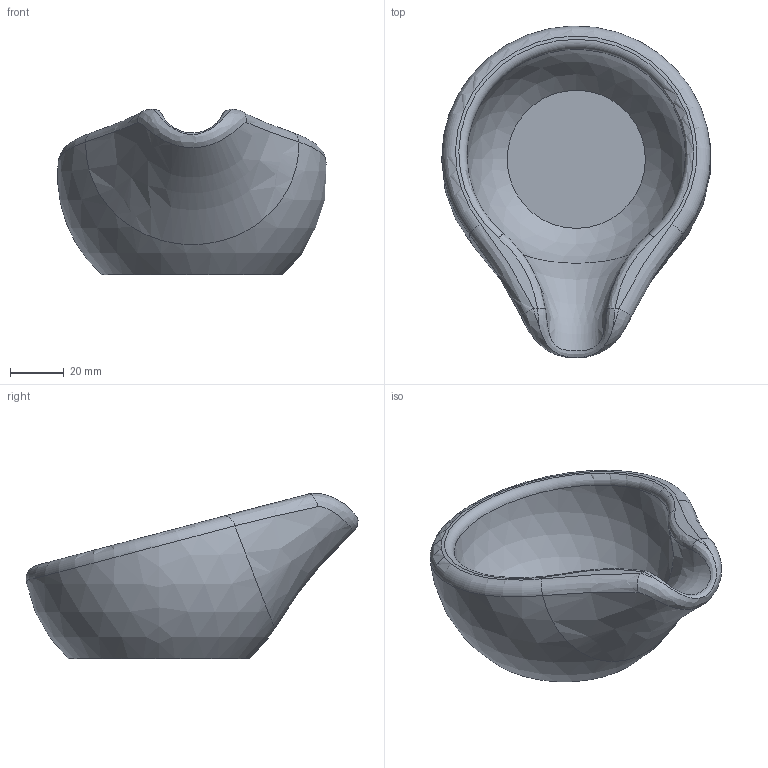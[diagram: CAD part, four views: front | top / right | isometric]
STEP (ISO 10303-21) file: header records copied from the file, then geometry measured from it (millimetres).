
FILE_DESCRIPTION(/* description */ (''),/* implementation_level */ '2;1');
FILE_NAME(/* name */ 'Nadobka2 v4.step',/* time_stamp */ '2023-04-05T22:11:18+02:00',/* author */ (''),/* organization */ (''),/* preprocessor_version */ 'ST-DEVELOPER v19.2',/* originating_system */ 'Autodesk Translation Framework v11.17.0.187',/* authorisation */ '');
FILE_SCHEMA (('AUTOMOTIVE_DESIGN { 1 0 10303 214 3 1 1 }'));
Length unit declared in the file: millimetre
Products named in the file (1): Nadobka2
Bounding box: 99.65 x 123.14 x 61.38 mm (x, y, z)
Volume: 137663.8 mm3; surface area: 34565.9 mm2
Topology: 1 solids, 1 shells, 17 faces, 37 edges, 22 vertices
Faces by surface type: bspline 10, plane 3, torus 2, sphere 2
Entity records: 1211 total; most frequent: CARTESIAN_POINT 858, ORIENTED_EDGE 74, DIRECTION 52, EDGE_CURVE 37, AXIS2_PLACEMENT_3D 26, VERTEX_POINT 22, B_SPLINE_CURVE_WITH_KNOTS 19, CIRCLE 18
